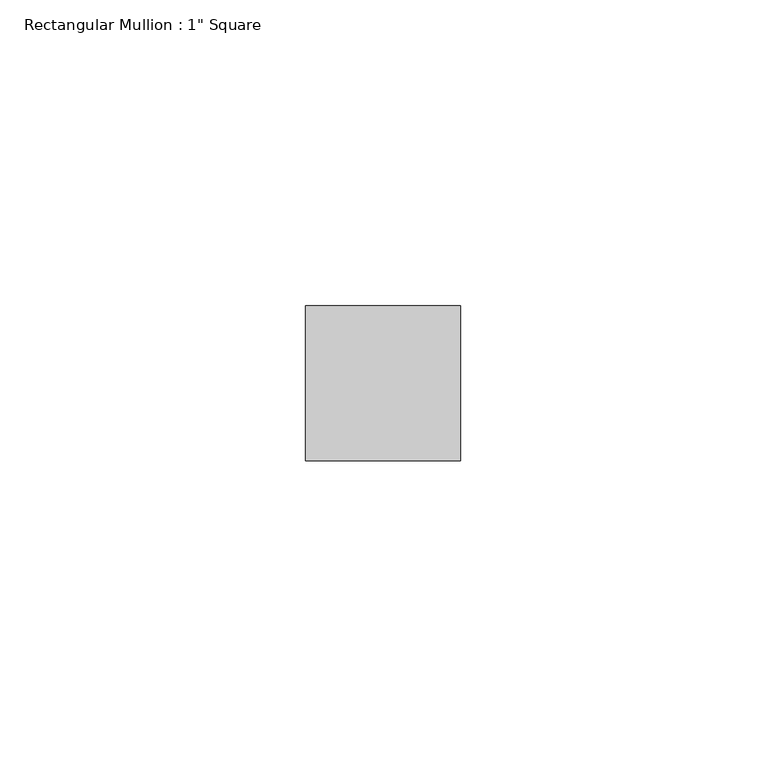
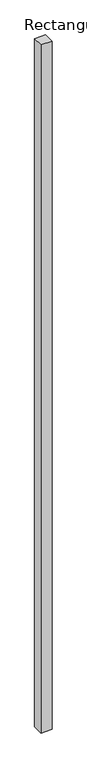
"""IFC4 building model written with IfcOpenShell, lengths in millimetres: member geometry."""

from ifc_helpers import new_model, si_unit, frame, origin, place, context, project, spatial, polyline, outline, extrude, source, transform, mapped, element, save


def member_e5884c93(model_context):
    return source(origin(), model_context, "Body", "SweptSolid", [
        extrude(outline(polyline([(12.7, 12.7), (12.7, -12.7), (-12.7, -12.7), (-12.7, 12.7), (12.7, 12.7)])), frame((0.0, 0.0, -1667.3604425), z_axis=(0.0, 0.0, 1.0), x_axis=(1.0, 0.0, 0.0)), (0.0, 0.0, 1.0), 1667.3604425),
    ])


if __name__ == "__main__":
    model = new_model("IFC4")
    model_context = context("Model", 3, world=origin())
    ifc_project = project(units=[si_unit("LENGTHUNIT", "METRE", prefix="MILLI")], contexts=[model_context])
    site = spatial("IfcSite", under=ifc_project)
    building = spatial("IfcBuilding", under=site)
    placement = place(None, origin())
    member_shape = member_e5884c93(model_context)
    element("IfcMember", 1, ObjectType="Rectangular Mullion : 1\" Square", at=placement, inside=building, context=model_context, shape_type="MappedRepresentation", body=[
        mapped(member_shape, transform((0.0, 0.0, 0.0), x_axis=(1.0, 0.0, 0.0), y_axis=(0.0, 1.0, 0.0), z_axis=(0.0, 0.0, 1.0))),
    ])
    save(model, "model.ifc")
